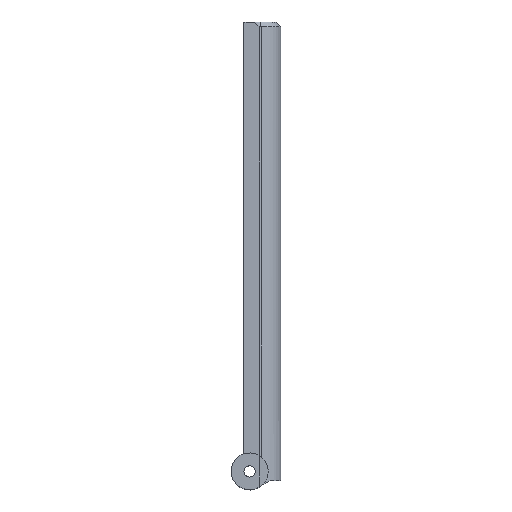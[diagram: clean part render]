
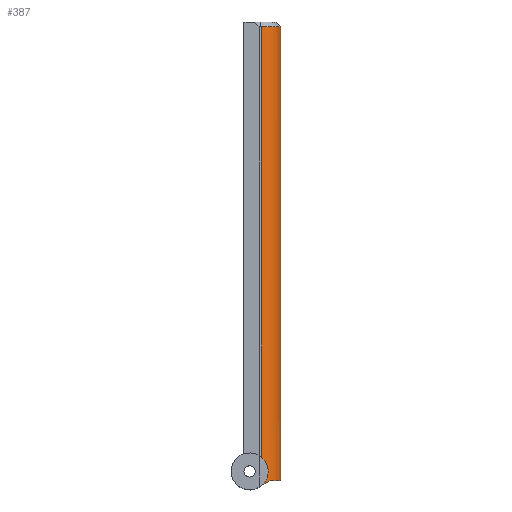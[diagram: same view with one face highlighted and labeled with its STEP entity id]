
A CAD part, top view. The second image highlights one B-rep face of the part: STEP entity #387.
In plain terms, the highlighted cylindrical face has radius 2.8 mm (diameter 5.6 mm), a partial arc.
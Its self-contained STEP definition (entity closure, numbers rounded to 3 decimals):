
#21 = EDGE_CURVE('',#22,#24,#26,.T.);
#22 = VERTEX_POINT('',#23);
#23 = CARTESIAN_POINT('',(19.424,-48.5,6.292));
#24 = VERTEX_POINT('',#25);
#25 = CARTESIAN_POINT('',(19.115,-48.893,6.413
    ));
#26 = B_SPLINE_CURVE_WITH_KNOTS('',5,(#27,#28,#29,#30,#31,#32),
  .UNSPECIFIED.,.F.,.F.,(6,6),(0.,1.),.PIECEWISE_BEZIER_KNOTS.);
#27 = CARTESIAN_POINT('',(19.424,-48.5,6.292));
#28 = CARTESIAN_POINT('',(19.374,-48.584,6.315
    ));
#29 = CARTESIAN_POINT('',(19.318,-48.666,6.339
    ));
#30 = CARTESIAN_POINT('',(19.256,-48.745,6.364
    ));
#31 = CARTESIAN_POINT('',(19.189,-48.821,6.389)
  );
#32 = CARTESIAN_POINT('',(19.115,-48.893,6.413
    ));
#35 = VERTEX_POINT('',#36);
#36 = CARTESIAN_POINT('',(19.115,-48.893,1.087
    ));
#42 = EDGE_CURVE('',#43,#35,#45,.T.);
#43 = VERTEX_POINT('',#44);
#44 = CARTESIAN_POINT('',(19.424,-48.5,1.208));
#45 = B_SPLINE_CURVE_WITH_KNOTS('',5,(#46,#47,#48,#49,#50,#51),
  .UNSPECIFIED.,.F.,.F.,(6,6),(0.,1.),.PIECEWISE_BEZIER_KNOTS.);
#46 = CARTESIAN_POINT('',(19.424,-48.5,1.208));
#47 = CARTESIAN_POINT('',(19.374,-48.584,1.185
    ));
#48 = CARTESIAN_POINT('',(19.318,-48.666,1.161
    ));
#49 = CARTESIAN_POINT('',(19.256,-48.745,1.136
    ));
#50 = CARTESIAN_POINT('',(19.189,-48.821,1.111
    ));
#51 = CARTESIAN_POINT('',(19.115,-48.893,1.087
    ));
#53 = EDGE_CURVE('',#43,#54,#56,.T.);
#54 = VERTEX_POINT('',#55);
#55 = CARTESIAN_POINT('',(19.7,-47.5,1.355));
#56 = B_SPLINE_CURVE_WITH_KNOTS('',6,(#57,#58,#59,#60,#61,#62,#63),
  .UNSPECIFIED.,.F.,.F.,(7,7),(0.,1.),.PIECEWISE_BEZIER_KNOTS.);
#57 = CARTESIAN_POINT('',(19.424,-48.5,1.208
    ));
#58 = CARTESIAN_POINT('',(19.515,-48.347,1.25
    ));
#59 = CARTESIAN_POINT('',(19.589,-48.186,1.289)
  );
#60 = CARTESIAN_POINT('',(19.644,-48.019,1.321)
  );
#61 = CARTESIAN_POINT('',(19.681,-47.848,1.343
    ));
#62 = CARTESIAN_POINT('',(19.7,-47.674,1.355));
#63 = CARTESIAN_POINT('',(19.7,-47.5,1.355));
#99 = EDGE_CURVE('',#54,#100,#102,.T.);
#100 = VERTEX_POINT('',#101);
#101 = CARTESIAN_POINT('',(18.977,-45.984,1.046
    ));
#102 = B_SPLINE_CURVE_WITH_KNOTS('',6,(#103,#104,#105,#106,#107,#108,
    #109,#110,#111,#112,#113,#114,#115,#116,#117,#118,#119),
  .UNSPECIFIED.,.F.,.F.,(7,5,5,7),(0.,0.574,0.882,1.),
  .UNSPECIFIED.);
#103 = CARTESIAN_POINT('',(19.7,-47.5,1.355));
#104 = CARTESIAN_POINT('',(19.7,-47.338,1.355));
#105 = CARTESIAN_POINT('',(19.684,-47.176,
    1.345));
#106 = CARTESIAN_POINT('',(19.652,-47.017,1.325));
#107 = CARTESIAN_POINT('',(19.604,-46.86,
    1.298));
#108 = CARTESIAN_POINT('',(19.54,-46.709,1.263)
  );
#109 = CARTESIAN_POINT('',(19.418,-46.487,
    1.205));
#110 = CARTESIAN_POINT('',(19.372,-46.411,
    1.184));
#111 = CARTESIAN_POINT('',(19.32,-46.338,
    1.161));
#112 = CARTESIAN_POINT('',(19.264,-46.266,
    1.139));
#113 = CARTESIAN_POINT('',(19.204,-46.197,
    1.117));
#114 = CARTESIAN_POINT('',(19.113,-46.105,
    1.086));
#115 = CARTESIAN_POINT('',(19.087,-46.08,
    1.078));
#116 = CARTESIAN_POINT('',(19.061,-46.056,1.07
    ));
#117 = CARTESIAN_POINT('',(19.034,-46.031,
    1.062));
#118 = CARTESIAN_POINT('',(19.006,-46.008,
    1.054));
#119 = CARTESIAN_POINT('',(18.977,-45.984,1.046
    ));
#299 = VERTEX_POINT('',#300);
#300 = CARTESIAN_POINT('',(18.977,-45.984,6.454
    ));
#317 = EDGE_CURVE('',#318,#299,#320,.T.);
#318 = VERTEX_POINT('',#319);
#319 = CARTESIAN_POINT('',(19.7,-47.5,6.145));
#320 = B_SPLINE_CURVE_WITH_KNOTS('',6,(#321,#322,#323,#324,#325,#326,
    #327,#328,#329,#330,#331,#332,#333,#334,#335,#336,#337),
  .UNSPECIFIED.,.F.,.F.,(7,5,5,7),(0.,0.574,0.882,1.),
  .UNSPECIFIED.);
#321 = CARTESIAN_POINT('',(19.7,-47.5,6.145));
#322 = CARTESIAN_POINT('',(19.7,-47.338,6.145));
#323 = CARTESIAN_POINT('',(19.684,-47.176,
    6.155));
#324 = CARTESIAN_POINT('',(19.652,-47.017,6.175));
#325 = CARTESIAN_POINT('',(19.604,-46.86,
    6.202));
#326 = CARTESIAN_POINT('',(19.54,-46.709,6.237)
  );
#327 = CARTESIAN_POINT('',(19.418,-46.487,
    6.295));
#328 = CARTESIAN_POINT('',(19.372,-46.411,
    6.316));
#329 = CARTESIAN_POINT('',(19.32,-46.338,
    6.339));
#330 = CARTESIAN_POINT('',(19.264,-46.266,
    6.361));
#331 = CARTESIAN_POINT('',(19.204,-46.197,
    6.383));
#332 = CARTESIAN_POINT('',(19.113,-46.105,
    6.414));
#333 = CARTESIAN_POINT('',(19.087,-46.08,
    6.422));
#334 = CARTESIAN_POINT('',(19.061,-46.056,6.43
    ));
#335 = CARTESIAN_POINT('',(19.034,-46.031,
    6.438));
#336 = CARTESIAN_POINT('',(19.006,-46.008,
    6.446));
#337 = CARTESIAN_POINT('',(18.977,-45.984,6.454
    ));
#373 = EDGE_CURVE('',#22,#318,#374,.T.);
#374 = B_SPLINE_CURVE_WITH_KNOTS('',6,(#375,#376,#377,#378,#379,#380,
    #381),.UNSPECIFIED.,.F.,.F.,(7,7),(0.,1.),.PIECEWISE_BEZIER_KNOTS.);
#375 = CARTESIAN_POINT('',(19.424,-48.5,
    6.292));
#376 = CARTESIAN_POINT('',(19.515,-48.347,
    6.25));
#377 = CARTESIAN_POINT('',(19.589,-48.186,
    6.211));
#378 = CARTESIAN_POINT('',(19.644,-48.019,6.179
    ));
#379 = CARTESIAN_POINT('',(19.681,-47.848,
    6.157));
#380 = CARTESIAN_POINT('',(19.7,-47.674,6.145));
#381 = CARTESIAN_POINT('',(19.7,-47.5,6.145));
#387 = ADVANCED_FACE('',(#388),#444,.T.);
#388 = FACE_BOUND('',#389,.F.);
#389 = EDGE_LOOP('',(#390,#401,#408,#409,#410,#411,#419,#428,#434,#435,
    #436,#437));
#390 = ORIENTED_EDGE('',*,*,#391,.T.);
#391 = EDGE_CURVE('',#392,#394,#396,.T.);
#392 = VERTEX_POINT('',#393);
#393 = CARTESIAN_POINT('',(19.924,-48.5,1.506));
#394 = VERTEX_POINT('',#395);
#395 = CARTESIAN_POINT('',(19.924,-48.5,5.994));
#396 = CIRCLE('',#397,2.8);
#397 = AXIS2_PLACEMENT_3D('',#398,#399,#400);
#398 = CARTESIAN_POINT('',(18.25,-48.5,3.75));
#399 = DIRECTION('',(-0.,-1.,0.));
#400 = DIRECTION('',(-1.,0.,0.));
#401 = ORIENTED_EDGE('',*,*,#402,.F.);
#402 = EDGE_CURVE('',#24,#394,#403,.T.);
#403 = ELLIPSE('',#404,3.112,2.8);
#404 = AXIS2_PLACEMENT_3D('',#405,#406,#407);
#405 = CARTESIAN_POINT('',(18.25,-49.313,3.75));
#406 = DIRECTION('',(-0.437,0.9,0.));
#407 = DIRECTION('',(0.9,0.437,0.));
#408 = ORIENTED_EDGE('',*,*,#21,.F.);
#409 = ORIENTED_EDGE('',*,*,#373,.T.);
#410 = ORIENTED_EDGE('',*,*,#317,.T.);
#411 = ORIENTED_EDGE('',*,*,#412,.F.);
#412 = EDGE_CURVE('',#413,#299,#415,.T.);
#413 = VERTEX_POINT('',#414);
#414 = CARTESIAN_POINT('',(18.977,-0.5,6.454));
#415 = LINE('',#416,#417);
#416 = CARTESIAN_POINT('',(18.977,0.,6.454));
#417 = VECTOR('',#418,1.);
#418 = DIRECTION('',(0.,-1.,0.));
#419 = ORIENTED_EDGE('',*,*,#420,.F.);
#420 = EDGE_CURVE('',#421,#413,#423,.T.);
#421 = VERTEX_POINT('',#422);
#422 = CARTESIAN_POINT('',(18.977,-0.5,1.046));
#423 = CIRCLE('',#424,2.8);
#424 = AXIS2_PLACEMENT_3D('',#425,#426,#427);
#425 = CARTESIAN_POINT('',(18.25,-0.5,3.75));
#426 = DIRECTION('',(0.,-1.,0.));
#427 = DIRECTION('',(0.26,0.,-0.966)
  );
#428 = ORIENTED_EDGE('',*,*,#429,.T.);
#429 = EDGE_CURVE('',#421,#100,#430,.T.);
#430 = LINE('',#431,#432);
#431 = CARTESIAN_POINT('',(18.977,0.,1.046));
#432 = VECTOR('',#433,1.);
#433 = DIRECTION('',(0.,-1.,0.));
#434 = ORIENTED_EDGE('',*,*,#99,.F.);
#435 = ORIENTED_EDGE('',*,*,#53,.F.);
#436 = ORIENTED_EDGE('',*,*,#42,.T.);
#437 = ORIENTED_EDGE('',*,*,#438,.T.);
#438 = EDGE_CURVE('',#35,#392,#439,.T.);
#439 = ELLIPSE('',#440,3.112,2.8);
#440 = AXIS2_PLACEMENT_3D('',#441,#442,#443);
#441 = CARTESIAN_POINT('',(18.25,-49.313,3.75));
#442 = DIRECTION('',(0.437,-0.9,0.));
#443 = DIRECTION('',(0.9,0.437,0.));
#444 = CYLINDRICAL_SURFACE('',#445,2.8);
#445 = AXIS2_PLACEMENT_3D('',#446,#447,#448);
#446 = CARTESIAN_POINT('',(18.25,0.,3.75));
#447 = DIRECTION('',(0.,1.,0.));
#448 = DIRECTION('',(-1.,0.,0.));
